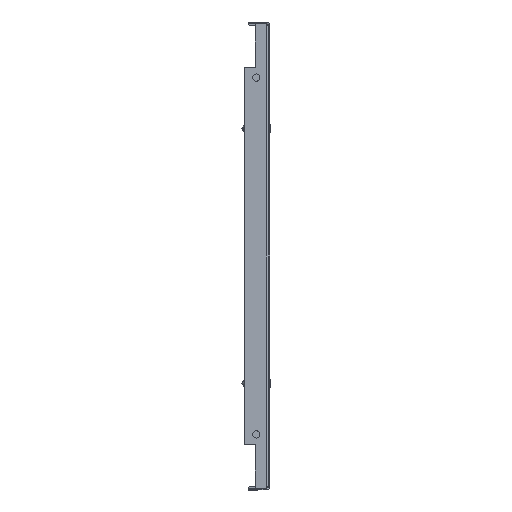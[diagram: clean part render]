
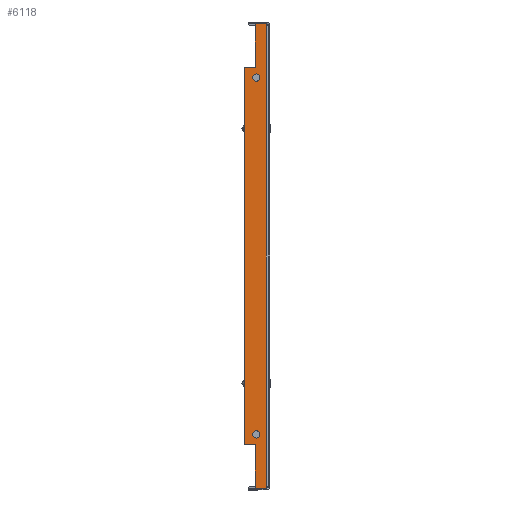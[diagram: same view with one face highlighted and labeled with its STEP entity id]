
A CAD part, front view. The second image highlights one B-rep face of the part: STEP entity #6118.
In plain terms, the highlighted planar face has unit normal (0, -1, 0).
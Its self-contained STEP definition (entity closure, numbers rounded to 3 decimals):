
#20 = LINE ( 'NONE', #6253, #4302 ) ;
#22 = FACE_BOUND ( 'NONE', #2628, .T. ) ;
#116 = FACE_OUTER_BOUND ( 'NONE', #9706, .T. ) ;
#144 = FACE_BOUND ( 'NONE', #848, .T. ) ;
#451 = ORIENTED_EDGE ( 'NONE', *, *, #4906, .F. ) ;
#585 = DIRECTION ( 'NONE',  ( 0., 0., -1. ) ) ;
#589 = CARTESIAN_POINT ( 'NONE',  ( -146.911, -791.5, 18.606 ) ) ;
#646 = VERTEX_POINT ( 'NONE', #4604 ) ;
#667 = CIRCLE ( 'NONE', #7063, 2.781 ) ;
#704 = DIRECTION ( 'NONE',  ( 0., 1., 0. ) ) ;
#712 = VERTEX_POINT ( 'NONE', #10162 ) ;
#848 = EDGE_LOOP ( 'NONE', ( #9039, #2484 ) ) ;
#1243 = LINE ( 'NONE', #9216, #1317 ) ;
#1310 = EDGE_CURVE ( 'NONE', #2950, #8811, #8324, .T. ) ;
#1317 = VECTOR ( 'NONE', #9009, 1000. ) ;
#1335 = VECTOR ( 'NONE', #6932, 1000. ) ;
#1375 = CARTESIAN_POINT ( 'NONE',  ( -179.079, -791.5, 1.524 ) ) ;
#1379 = AXIS2_PLACEMENT_3D ( 'NONE', #5084, #5059, #5051 ) ;
#1556 = DIRECTION ( 'NONE',  ( 0., 0., 1. ) ) ;
#1567 = CIRCLE ( 'NONE', #1379, 2.781 ) ;
#1633 = DIRECTION ( 'NONE',  ( -1., 0., 0. ) ) ;
#1717 = EDGE_CURVE ( 'NONE', #7270, #2668, #8935, .T. ) ;
#2115 = DIRECTION ( 'NONE',  ( -1., 0., 0. ) ) ;
#2133 = DIRECTION ( 'NONE',  ( 0., 1., 0. ) ) ;
#2145 = CARTESIAN_POINT ( 'NONE',  ( -138.82, -791.5, 9.081 ) ) ;
#2262 = CARTESIAN_POINT ( 'NONE',  ( 138.82, -791.5, 9.081 ) ) ;
#2379 = VERTEX_POINT ( 'NONE', #7681 ) ;
#2452 = CARTESIAN_POINT ( 'NONE',  ( 146.911, -791.5, 18.606 ) ) ;
#2484 = ORIENTED_EDGE ( 'NONE', *, *, #1717, .T. ) ;
#2628 = EDGE_LOOP ( 'NONE', ( #9587, #3508 ) ) ;
#2668 = VERTEX_POINT ( 'NONE', #9317 ) ;
#2694 = ORIENTED_EDGE ( 'NONE', *, *, #5555, .T. ) ;
#2781 = VECTOR ( 'NONE', #9628, 1000. ) ;
#2950 = VERTEX_POINT ( 'NONE', #7231 ) ;
#3119 = CIRCLE ( 'NONE', #3194, 2.781 ) ;
#3194 = AXIS2_PLACEMENT_3D ( 'NONE', #2145, #2133, #2115 ) ;
#3245 = VERTEX_POINT ( 'NONE', #5707 ) ;
#3325 = EDGE_CURVE ( 'NONE', #2668, #7270, #1567, .T. ) ;
#3401 = ORIENTED_EDGE ( 'NONE', *, *, #6540, .T. ) ;
#3508 = ORIENTED_EDGE ( 'NONE', *, *, #4589, .T. ) ;
#3527 = CARTESIAN_POINT ( 'NONE',  ( 141.601, -791.5, 9.081 ) ) ;
#3706 = AXIS2_PLACEMENT_3D ( 'NONE', #2262, #6274, #5989 ) ;
#3871 = EDGE_CURVE ( 'NONE', #2950, #2379, #7829, .T. ) ;
#4014 = LINE ( 'NONE', #7745, #1335 ) ;
#4022 = CARTESIAN_POINT ( 'NONE',  ( -141.601, -791.5, 9.081 ) ) ;
#4173 = VERTEX_POINT ( 'NONE', #2452 ) ;
#4302 = VECTOR ( 'NONE', #8918, 1000. ) ;
#4456 = LINE ( 'NONE', #9557, #2781 ) ;
#4461 = VERTEX_POINT ( 'NONE', #6074 ) ;
#4479 = CARTESIAN_POINT ( 'NONE',  ( -138.82, -791.5, 9.081 ) ) ;
#4515 = EDGE_CURVE ( 'NONE', #4173, #3245, #1243, .T. ) ;
#4589 = EDGE_CURVE ( 'NONE', #646, #8812, #667, .T. ) ;
#4604 = CARTESIAN_POINT ( 'NONE',  ( -136.039, -791.5, 9.081 ) ) ;
#4823 = LINE ( 'NONE', #589, #9605 ) ;
#4906 = EDGE_CURVE ( 'NONE', #2379, #712, #9209, .T. ) ;
#4953 = DIRECTION ( 'NONE',  ( 0., 1., 0. ) ) ;
#4980 = CARTESIAN_POINT ( 'NONE',  ( 180.503, -791.5, 10.003 ) ) ;
#5051 = DIRECTION ( 'NONE',  ( -1., 0., 0. ) ) ;
#5059 = DIRECTION ( 'NONE',  ( 0., 1., 0. ) ) ;
#5084 = CARTESIAN_POINT ( 'NONE',  ( 138.82, -791.5, 9.081 ) ) ;
#5175 = ORIENTED_EDGE ( 'NONE', *, *, #7657, .T. ) ;
#5555 = EDGE_CURVE ( 'NONE', #7034, #712, #4014, .T. ) ;
#5707 = CARTESIAN_POINT ( 'NONE',  ( -146.911, -791.5, 18.606 ) ) ;
#5718 = CARTESIAN_POINT ( 'NONE',  ( -146.911, -791.5, 10.003 ) ) ;
#5745 = CARTESIAN_POINT ( 'NONE',  ( -180.503, -791.5, 1.524 ) ) ;
#5986 = DIRECTION ( 'NONE',  ( -1., 0., 0. ) ) ;
#5989 = DIRECTION ( 'NONE',  ( -1., 0., 0. ) ) ;
#6074 = CARTESIAN_POINT ( 'NONE',  ( 146.911, -791.5, 10.003 ) ) ;
#6118 = ADVANCED_FACE ( 'NONE', ( #144, #22, #116 ), #8143, .F. ) ;
#6119 = VECTOR ( 'NONE', #8796, 1000. ) ;
#6184 = EDGE_CURVE ( 'NONE', #4461, #4173, #20, .T. ) ;
#6253 = CARTESIAN_POINT ( 'NONE',  ( 146.911, -791.5, 18.606 ) ) ;
#6274 = DIRECTION ( 'NONE',  ( 0., 1., 0. ) ) ;
#6540 = EDGE_CURVE ( 'NONE', #8811, #4461, #4456, .T. ) ;
#6932 = DIRECTION ( 'NONE',  ( -1., 0., 0. ) ) ;
#7034 = VERTEX_POINT ( 'NONE', #5718 ) ;
#7063 = AXIS2_PLACEMENT_3D ( 'NONE', #4479, #4953, #5986 ) ;
#7231 = CARTESIAN_POINT ( 'NONE',  ( 180.503, -791.5, 1.524 ) ) ;
#7270 = VERTEX_POINT ( 'NONE', #3527 ) ;
#7406 = EDGE_CURVE ( 'NONE', #8812, #646, #3119, .T. ) ;
#7574 = VECTOR ( 'NONE', #1556, 1000. ) ;
#7657 = EDGE_CURVE ( 'NONE', #3245, #7034, #4823, .T. ) ;
#7679 = ORIENTED_EDGE ( 'NONE', *, *, #4515, .T. ) ;
#7681 = CARTESIAN_POINT ( 'NONE',  ( -180.503, -791.5, 1.524 ) ) ;
#7745 = CARTESIAN_POINT ( 'NONE',  ( -179.079, -791.5, 10.003 ) ) ;
#7829 = LINE ( 'NONE', #1375, #8454 ) ;
#8143 = PLANE ( 'NONE',  #9714 ) ;
#8290 = ORIENTED_EDGE ( 'NONE', *, *, #1310, .T. ) ;
#8324 = LINE ( 'NONE', #9254, #7574 ) ;
#8454 = VECTOR ( 'NONE', #1633, 1000. ) ;
#8601 = CARTESIAN_POINT ( 'NONE',  ( -179.079, -791.5, 18.606 ) ) ;
#8605 = ORIENTED_EDGE ( 'NONE', *, *, #3871, .F. ) ;
#8796 = DIRECTION ( 'NONE',  ( 0., 0., 1. ) ) ;
#8811 = VERTEX_POINT ( 'NONE', #4980 ) ;
#8812 = VERTEX_POINT ( 'NONE', #4022 ) ;
#8918 = DIRECTION ( 'NONE',  ( 0., 0., 1. ) ) ;
#8935 = CIRCLE ( 'NONE', #3706, 2.781 ) ;
#9009 = DIRECTION ( 'NONE',  ( -1., 0., 0. ) ) ;
#9039 = ORIENTED_EDGE ( 'NONE', *, *, #3325, .T. ) ;
#9209 = LINE ( 'NONE', #5745, #6119 ) ;
#9216 = CARTESIAN_POINT ( 'NONE',  ( -179.079, -791.5, 18.606 ) ) ;
#9254 = CARTESIAN_POINT ( 'NONE',  ( 180.503, -791.5, 1.524 ) ) ;
#9317 = CARTESIAN_POINT ( 'NONE',  ( 136.039, -791.5, 9.081 ) ) ;
#9557 = CARTESIAN_POINT ( 'NONE',  ( -179.079, -791.5, 10.003 ) ) ;
#9587 = ORIENTED_EDGE ( 'NONE', *, *, #7406, .T. ) ;
#9605 = VECTOR ( 'NONE', #585, 1000. ) ;
#9628 = DIRECTION ( 'NONE',  ( -1., 0., 0. ) ) ;
#9706 = EDGE_LOOP ( 'NONE', ( #3401, #9970, #7679, #5175, #2694, #451, #8605, #8290 ) ) ;
#9714 = AXIS2_PLACEMENT_3D ( 'NONE', #8601, #704, #9960 ) ;
#9960 = DIRECTION ( 'NONE',  ( 0., 0., 1. ) ) ;
#9970 = ORIENTED_EDGE ( 'NONE', *, *, #6184, .T. ) ;
#10162 = CARTESIAN_POINT ( 'NONE',  ( -180.503, -791.5, 10.003 ) ) ;
